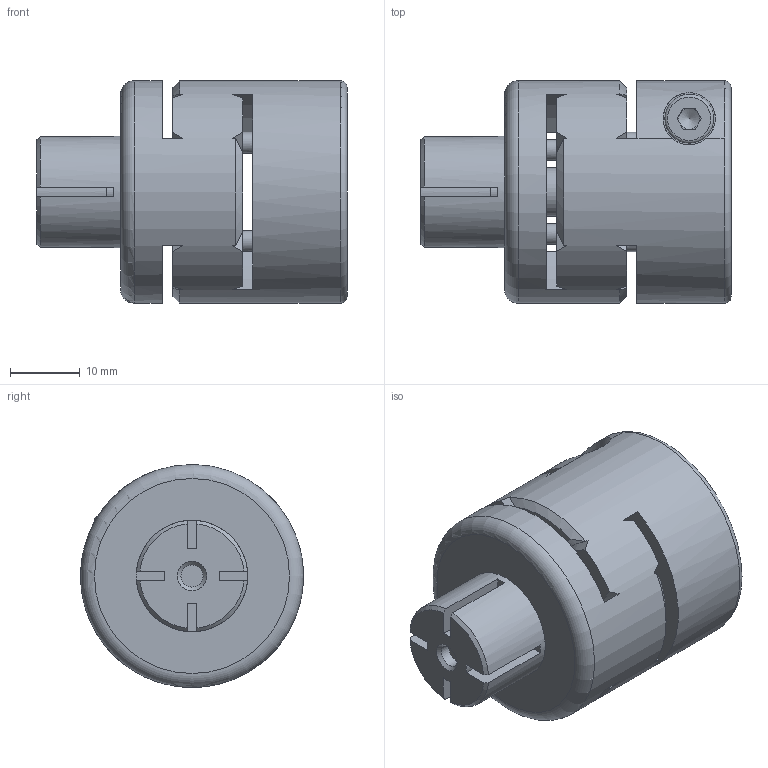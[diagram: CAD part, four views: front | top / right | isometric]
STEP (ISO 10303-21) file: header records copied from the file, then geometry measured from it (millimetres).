
FILE_DESCRIPTION(/* description */ ('Unknown'),/* implementation_level */ '2;1');
FILE_NAME(/* name */ 'EKS 8',/* time_stamp */ '2021-02-22T08:40:45+01:00',/* author */ ('Unknown'),/* organization */ ('Unknown'),/* preprocessor_version */ 'ST-DEVELOPER v16.7',/* originating_system */ 'DEX',/* authorisation */ $);
FILE_SCHEMA (('AUTOMOTIVE_DESIGN {1 0 10303 214 3 1 1}'));
Length unit declared in the file: millimetre
Products named in the file (1): EKS 8
Bounding box: 44.5 x 32 x 32 mm (x, y, z)
Volume: 24323.7 mm3; surface area: 10244.2 mm2
Topology: 1 solids, 1 shells, 165 faces, 474 edges, 303 vertices
Faces by surface type: plane 59, cylinder 54, cone 46, torus 6
Full cylindrical faces by diameter (mm): 3 x4, 3.2 x1, 3.3 x1, 4 x2, 4.3 x2, 7 x3, 7.5 x2, 8.5 x1, 10.5 x2, 16 x1, 32 x1
Entity records: 5300 total; most frequent: CARTESIAN_POINT 1192, DIRECTION 848, ORIENTED_EDGE 838, EDGE_CURVE 419, AXIS2_PLACEMENT_3D 356, VERTEX_POINT 284, FACE_BOUND 223, EDGE_LOOP 221
